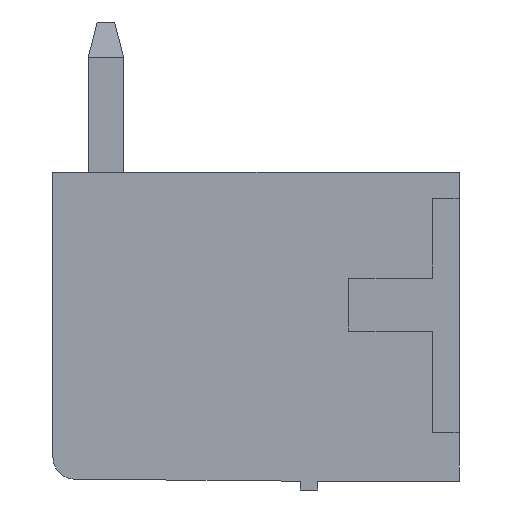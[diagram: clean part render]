
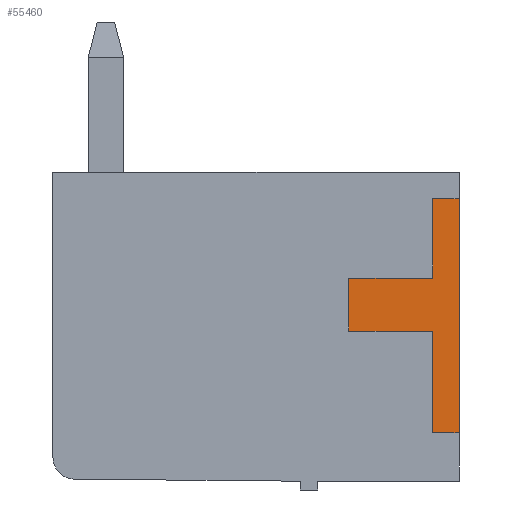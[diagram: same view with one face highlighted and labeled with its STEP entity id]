
A CAD part, left-side view. The second image highlights one B-rep face of the part: STEP entity #55460.
In plain terms, the highlighted planar face has unit normal (-1, 0, 0).
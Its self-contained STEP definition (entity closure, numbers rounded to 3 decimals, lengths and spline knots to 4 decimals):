
#126 = PLANE('',#127);
#127 = AXIS2_PLACEMENT_3D('',#128,#129,#130);
#128 = CARTESIAN_POINT('',(0.,0.,7.));
#129 = DIRECTION('',(0.,-1.,0.));
#130 = DIRECTION('',(0.,0.,-1.));
#1273 = VERTEX_POINT('',#1274);
#1274 = CARTESIAN_POINT('',(-0.2,0.,1.1));
#1288 = PLANE('',#1289);
#1289 = AXIS2_PLACEMENT_3D('',#1290,#1291,#1292);
#1290 = CARTESIAN_POINT('',(0.,0.6,1.1));
#1291 = DIRECTION('',(0.,0.,-1.));
#1292 = DIRECTION('',(0.,-1.,0.));
#1300 = EDGE_CURVE('',#1273,#1301,#1303,.T.);
#1301 = VERTEX_POINT('',#1302);
#1302 = CARTESIAN_POINT('',(-0.2,0.,6.4));
#1303 = SURFACE_CURVE('',#1304,(#1308,#1315),.PCURVE_S1.);
#1304 = LINE('',#1305,#1306);
#1305 = CARTESIAN_POINT('',(-0.2,0.,1.1));
#1306 = VECTOR('',#1307,1.);
#1307 = DIRECTION('',(0.,0.,1.));
#1308 = PCURVE('',#126,#1309);
#1309 = DEFINITIONAL_REPRESENTATION('',(#1310),#1314);
#1310 = LINE('',#1311,#1312);
#1311 = CARTESIAN_POINT('',(5.9,-0.2));
#1312 = VECTOR('',#1313,1.);
#1313 = DIRECTION('',(-1.,0.));
#1314 = ( GEOMETRIC_REPRESENTATION_CONTEXT(2) 
PARAMETRIC_REPRESENTATION_CONTEXT() REPRESENTATION_CONTEXT('2D SPACE',''
  ) );
#1315 = PCURVE('',#1316,#1321);
#1316 = PLANE('',#1317);
#1317 = AXIS2_PLACEMENT_3D('',#1318,#1319,#1320);
#1318 = CARTESIAN_POINT('',(-0.2,0.,0.));
#1319 = DIRECTION('',(-1.,0.,0.));
#1320 = DIRECTION('',(0.,0.,1.));
#1321 = DEFINITIONAL_REPRESENTATION('',(#1322),#1326);
#1322 = LINE('',#1323,#1324);
#1323 = CARTESIAN_POINT('',(1.1,0.));
#1324 = VECTOR('',#1325,1.);
#1325 = DIRECTION('',(1.,0.));
#1326 = ( GEOMETRIC_REPRESENTATION_CONTEXT(2) 
PARAMETRIC_REPRESENTATION_CONTEXT() REPRESENTATION_CONTEXT('2D SPACE',''
  ) );
#1344 = PLANE('',#1345);
#1345 = AXIS2_PLACEMENT_3D('',#1346,#1347,#1348);
#1346 = CARTESIAN_POINT('',(0.,0.,6.4));
#1347 = DIRECTION('',(0.,0.,1.));
#1348 = DIRECTION('',(0.,1.,0.));
#16434 = PLANE('',#16435);
#16435 = AXIS2_PLACEMENT_3D('',#16436,#16437,#16438);
#16436 = CARTESIAN_POINT('',(0.,0.6,6.4));
#16437 = DIRECTION('',(0.,1.,0.));
#16438 = DIRECTION('',(0.,0.,-1.));
#16462 = PLANE('',#16463);
#16463 = AXIS2_PLACEMENT_3D('',#16464,#16465,#16466);
#16464 = CARTESIAN_POINT('',(0.,0.6,4.6));
#16465 = DIRECTION('',(0.,0.,1.));
#16466 = DIRECTION('',(0.,1.,0.));
#16490 = PLANE('',#16491);
#16491 = AXIS2_PLACEMENT_3D('',#16492,#16493,#16494);
#16492 = CARTESIAN_POINT('',(0.,2.5,4.6));
#16493 = DIRECTION('',(0.,1.,0.));
#16494 = DIRECTION('',(0.,0.,-1.));
#16518 = PLANE('',#16519);
#16519 = AXIS2_PLACEMENT_3D('',#16520,#16521,#16522);
#16520 = CARTESIAN_POINT('',(0.,2.5,3.4));
#16521 = DIRECTION('',(0.,0.,-1.));
#16522 = DIRECTION('',(0.,-1.,0.));
#16546 = PLANE('',#16547);
#16547 = AXIS2_PLACEMENT_3D('',#16548,#16549,#16550);
#16548 = CARTESIAN_POINT('',(0.,0.6,3.4));
#16549 = DIRECTION('',(0.,1.,0.));
#16550 = DIRECTION('',(0.,0.,-1.));
#55417 = EDGE_CURVE('',#1301,#55418,#55420,.T.);
#55418 = VERTEX_POINT('',#55419);
#55419 = CARTESIAN_POINT('',(-0.2,0.6,6.4));
#55420 = SURFACE_CURVE('',#55421,(#55425,#55432),.PCURVE_S1.);
#55421 = LINE('',#55422,#55423);
#55422 = CARTESIAN_POINT('',(-0.2,0.,6.4));
#55423 = VECTOR('',#55424,1.);
#55424 = DIRECTION('',(0.,1.,0.));
#55425 = PCURVE('',#1344,#55426);
#55426 = DEFINITIONAL_REPRESENTATION('',(#55427),#55431);
#55427 = LINE('',#55428,#55429);
#55428 = CARTESIAN_POINT('',(0.,0.2));
#55429 = VECTOR('',#55430,1.);
#55430 = DIRECTION('',(1.,0.));
#55431 = ( GEOMETRIC_REPRESENTATION_CONTEXT(2) 
PARAMETRIC_REPRESENTATION_CONTEXT() REPRESENTATION_CONTEXT('2D SPACE',''
  ) );
#55432 = PCURVE('',#1316,#55433);
#55433 = DEFINITIONAL_REPRESENTATION('',(#55434),#55438);
#55434 = LINE('',#55435,#55436);
#55435 = CARTESIAN_POINT('',(6.4,0.));
#55436 = VECTOR('',#55437,1.);
#55437 = DIRECTION('',(0.,1.));
#55438 = ( GEOMETRIC_REPRESENTATION_CONTEXT(2) 
PARAMETRIC_REPRESENTATION_CONTEXT() REPRESENTATION_CONTEXT('2D SPACE',''
  ) );
#55460 = ADVANCED_FACE('',(#55461),#1316,.T.);
#55461 = FACE_BOUND('',#55462,.F.);
#55462 = EDGE_LOOP('',(#55463,#55464,#55465,#55488,#55511,#55534,#55557,
    #55580));
#55463 = ORIENTED_EDGE('',*,*,#55417,.F.);
#55464 = ORIENTED_EDGE('',*,*,#1300,.F.);
#55465 = ORIENTED_EDGE('',*,*,#55466,.F.);
#55466 = EDGE_CURVE('',#55467,#1273,#55469,.T.);
#55467 = VERTEX_POINT('',#55468);
#55468 = CARTESIAN_POINT('',(-0.2,0.6,1.1));
#55469 = SURFACE_CURVE('',#55470,(#55474,#55481),.PCURVE_S1.);
#55470 = LINE('',#55471,#55472);
#55471 = CARTESIAN_POINT('',(-0.2,0.6,1.1));
#55472 = VECTOR('',#55473,1.);
#55473 = DIRECTION('',(0.,-1.,0.));
#55474 = PCURVE('',#1316,#55475);
#55475 = DEFINITIONAL_REPRESENTATION('',(#55476),#55480);
#55476 = LINE('',#55477,#55478);
#55477 = CARTESIAN_POINT('',(1.1,0.6));
#55478 = VECTOR('',#55479,1.);
#55479 = DIRECTION('',(0.,-1.));
#55480 = ( GEOMETRIC_REPRESENTATION_CONTEXT(2) 
PARAMETRIC_REPRESENTATION_CONTEXT() REPRESENTATION_CONTEXT('2D SPACE',''
  ) );
#55481 = PCURVE('',#1288,#55482);
#55482 = DEFINITIONAL_REPRESENTATION('',(#55483),#55487);
#55483 = LINE('',#55484,#55485);
#55484 = CARTESIAN_POINT('',(0.,0.2));
#55485 = VECTOR('',#55486,1.);
#55486 = DIRECTION('',(1.,0.));
#55487 = ( GEOMETRIC_REPRESENTATION_CONTEXT(2) 
PARAMETRIC_REPRESENTATION_CONTEXT() REPRESENTATION_CONTEXT('2D SPACE',''
  ) );
#55488 = ORIENTED_EDGE('',*,*,#55489,.F.);
#55489 = EDGE_CURVE('',#55490,#55467,#55492,.T.);
#55490 = VERTEX_POINT('',#55491);
#55491 = CARTESIAN_POINT('',(-0.2,0.6,3.4));
#55492 = SURFACE_CURVE('',#55493,(#55497,#55504),.PCURVE_S1.);
#55493 = LINE('',#55494,#55495);
#55494 = CARTESIAN_POINT('',(-0.2,0.6,3.4));
#55495 = VECTOR('',#55496,1.);
#55496 = DIRECTION('',(0.,0.,-1.));
#55497 = PCURVE('',#1316,#55498);
#55498 = DEFINITIONAL_REPRESENTATION('',(#55499),#55503);
#55499 = LINE('',#55500,#55501);
#55500 = CARTESIAN_POINT('',(3.4,0.6));
#55501 = VECTOR('',#55502,1.);
#55502 = DIRECTION('',(-1.,0.));
#55503 = ( GEOMETRIC_REPRESENTATION_CONTEXT(2) 
PARAMETRIC_REPRESENTATION_CONTEXT() REPRESENTATION_CONTEXT('2D SPACE',''
  ) );
#55504 = PCURVE('',#16546,#55505);
#55505 = DEFINITIONAL_REPRESENTATION('',(#55506),#55510);
#55506 = LINE('',#55507,#55508);
#55507 = CARTESIAN_POINT('',(0.,0.2));
#55508 = VECTOR('',#55509,1.);
#55509 = DIRECTION('',(1.,0.));
#55510 = ( GEOMETRIC_REPRESENTATION_CONTEXT(2) 
PARAMETRIC_REPRESENTATION_CONTEXT() REPRESENTATION_CONTEXT('2D SPACE',''
  ) );
#55511 = ORIENTED_EDGE('',*,*,#55512,.F.);
#55512 = EDGE_CURVE('',#55513,#55490,#55515,.T.);
#55513 = VERTEX_POINT('',#55514);
#55514 = CARTESIAN_POINT('',(-0.2,2.5,3.4));
#55515 = SURFACE_CURVE('',#55516,(#55520,#55527),.PCURVE_S1.);
#55516 = LINE('',#55517,#55518);
#55517 = CARTESIAN_POINT('',(-0.2,2.5,3.4));
#55518 = VECTOR('',#55519,1.);
#55519 = DIRECTION('',(0.,-1.,0.));
#55520 = PCURVE('',#1316,#55521);
#55521 = DEFINITIONAL_REPRESENTATION('',(#55522),#55526);
#55522 = LINE('',#55523,#55524);
#55523 = CARTESIAN_POINT('',(3.4,2.5));
#55524 = VECTOR('',#55525,1.);
#55525 = DIRECTION('',(0.,-1.));
#55526 = ( GEOMETRIC_REPRESENTATION_CONTEXT(2) 
PARAMETRIC_REPRESENTATION_CONTEXT() REPRESENTATION_CONTEXT('2D SPACE',''
  ) );
#55527 = PCURVE('',#16518,#55528);
#55528 = DEFINITIONAL_REPRESENTATION('',(#55529),#55533);
#55529 = LINE('',#55530,#55531);
#55530 = CARTESIAN_POINT('',(0.,0.2));
#55531 = VECTOR('',#55532,1.);
#55532 = DIRECTION('',(1.,0.));
#55533 = ( GEOMETRIC_REPRESENTATION_CONTEXT(2) 
PARAMETRIC_REPRESENTATION_CONTEXT() REPRESENTATION_CONTEXT('2D SPACE',''
  ) );
#55534 = ORIENTED_EDGE('',*,*,#55535,.F.);
#55535 = EDGE_CURVE('',#55536,#55513,#55538,.T.);
#55536 = VERTEX_POINT('',#55537);
#55537 = CARTESIAN_POINT('',(-0.2,2.5,4.6));
#55538 = SURFACE_CURVE('',#55539,(#55543,#55550),.PCURVE_S1.);
#55539 = LINE('',#55540,#55541);
#55540 = CARTESIAN_POINT('',(-0.2,2.5,4.6));
#55541 = VECTOR('',#55542,1.);
#55542 = DIRECTION('',(0.,0.,-1.));
#55543 = PCURVE('',#1316,#55544);
#55544 = DEFINITIONAL_REPRESENTATION('',(#55545),#55549);
#55545 = LINE('',#55546,#55547);
#55546 = CARTESIAN_POINT('',(4.6,2.5));
#55547 = VECTOR('',#55548,1.);
#55548 = DIRECTION('',(-1.,0.));
#55549 = ( GEOMETRIC_REPRESENTATION_CONTEXT(2) 
PARAMETRIC_REPRESENTATION_CONTEXT() REPRESENTATION_CONTEXT('2D SPACE',''
  ) );
#55550 = PCURVE('',#16490,#55551);
#55551 = DEFINITIONAL_REPRESENTATION('',(#55552),#55556);
#55552 = LINE('',#55553,#55554);
#55553 = CARTESIAN_POINT('',(0.,0.2));
#55554 = VECTOR('',#55555,1.);
#55555 = DIRECTION('',(1.,0.));
#55556 = ( GEOMETRIC_REPRESENTATION_CONTEXT(2) 
PARAMETRIC_REPRESENTATION_CONTEXT() REPRESENTATION_CONTEXT('2D SPACE',''
  ) );
#55557 = ORIENTED_EDGE('',*,*,#55558,.F.);
#55558 = EDGE_CURVE('',#55559,#55536,#55561,.T.);
#55559 = VERTEX_POINT('',#55560);
#55560 = CARTESIAN_POINT('',(-0.2,0.6,4.6));
#55561 = SURFACE_CURVE('',#55562,(#55566,#55573),.PCURVE_S1.);
#55562 = LINE('',#55563,#55564);
#55563 = CARTESIAN_POINT('',(-0.2,0.6,4.6));
#55564 = VECTOR('',#55565,1.);
#55565 = DIRECTION('',(0.,1.,0.));
#55566 = PCURVE('',#1316,#55567);
#55567 = DEFINITIONAL_REPRESENTATION('',(#55568),#55572);
#55568 = LINE('',#55569,#55570);
#55569 = CARTESIAN_POINT('',(4.6,0.6));
#55570 = VECTOR('',#55571,1.);
#55571 = DIRECTION('',(0.,1.));
#55572 = ( GEOMETRIC_REPRESENTATION_CONTEXT(2) 
PARAMETRIC_REPRESENTATION_CONTEXT() REPRESENTATION_CONTEXT('2D SPACE',''
  ) );
#55573 = PCURVE('',#16462,#55574);
#55574 = DEFINITIONAL_REPRESENTATION('',(#55575),#55579);
#55575 = LINE('',#55576,#55577);
#55576 = CARTESIAN_POINT('',(0.,0.2));
#55577 = VECTOR('',#55578,1.);
#55578 = DIRECTION('',(1.,0.));
#55579 = ( GEOMETRIC_REPRESENTATION_CONTEXT(2) 
PARAMETRIC_REPRESENTATION_CONTEXT() REPRESENTATION_CONTEXT('2D SPACE',''
  ) );
#55580 = ORIENTED_EDGE('',*,*,#55581,.F.);
#55581 = EDGE_CURVE('',#55418,#55559,#55582,.T.);
#55582 = SURFACE_CURVE('',#55583,(#55587,#55594),.PCURVE_S1.);
#55583 = LINE('',#55584,#55585);
#55584 = CARTESIAN_POINT('',(-0.2,0.6,6.4));
#55585 = VECTOR('',#55586,1.);
#55586 = DIRECTION('',(0.,0.,-1.));
#55587 = PCURVE('',#1316,#55588);
#55588 = DEFINITIONAL_REPRESENTATION('',(#55589),#55593);
#55589 = LINE('',#55590,#55591);
#55590 = CARTESIAN_POINT('',(6.4,0.6));
#55591 = VECTOR('',#55592,1.);
#55592 = DIRECTION('',(-1.,0.));
#55593 = ( GEOMETRIC_REPRESENTATION_CONTEXT(2) 
PARAMETRIC_REPRESENTATION_CONTEXT() REPRESENTATION_CONTEXT('2D SPACE',''
  ) );
#55594 = PCURVE('',#16434,#55595);
#55595 = DEFINITIONAL_REPRESENTATION('',(#55596),#55600);
#55596 = LINE('',#55597,#55598);
#55597 = CARTESIAN_POINT('',(0.,0.2));
#55598 = VECTOR('',#55599,1.);
#55599 = DIRECTION('',(1.,0.));
#55600 = ( GEOMETRIC_REPRESENTATION_CONTEXT(2) 
PARAMETRIC_REPRESENTATION_CONTEXT() REPRESENTATION_CONTEXT('2D SPACE',''
  ) );
